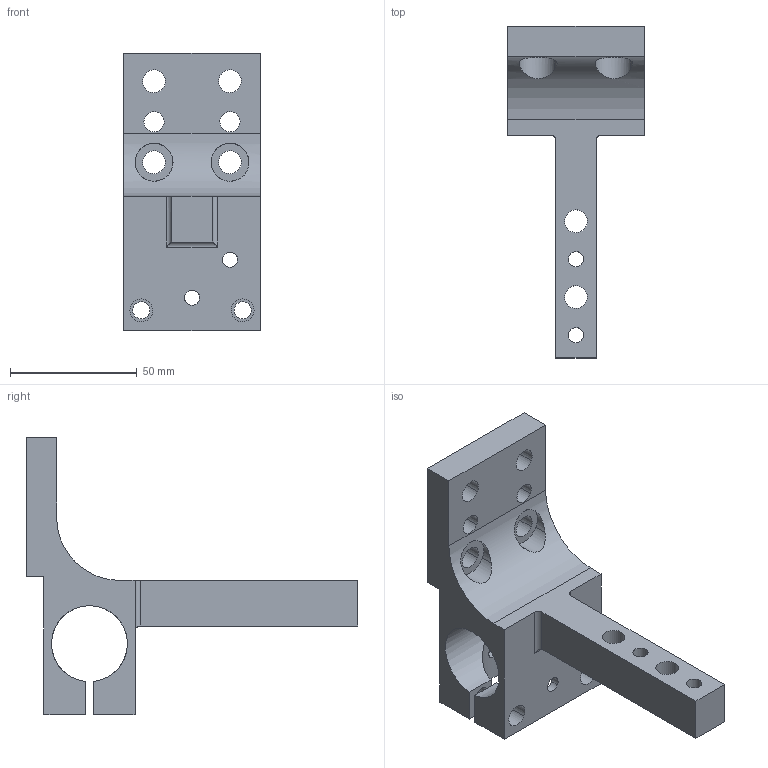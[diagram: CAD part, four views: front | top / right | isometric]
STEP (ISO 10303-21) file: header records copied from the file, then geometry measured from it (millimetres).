
FILE_DESCRIPTION(('CATIA V5 STEP Exchange'),'2;1');
FILE_NAME('\\Tcn-server2\产品部\2-PDD Database\6-Gripping\500-Other product\2-Euro gripper system\Euro Gripper to customer\Euro gripper-3D model for design-V2\EGT183_SPANNERANBINDUNG_50-63.stp','2013-04-08T08:07:40+00:00',('none'),('none'),'CATIA Version 5 Release 21 GA (IN-10)','CATIA V5 STEP AP203','none');
FILE_SCHEMA(('CONFIG_CONTROL_DESIGN'));
Length unit declared in the file: millimetre
Products named in the file (1): EGT183
Bounding box: 54 x 131 x 109.5 mm (x, y, z)
Volume: 102905.5 mm3; surface area: 36487.2 mm2
Topology: 1 solids, 1 shells, 74 faces, 206 edges, 136 vertices
Faces by surface type: cylinder 52, plane 22
Entity records: 2571 total; most frequent: CARTESIAN_POINT 736, ORIENTED_EDGE 412, DIRECTION 264, EDGE_CURVE 206, VERTEX_POINT 136, AXIS2_PLACEMENT_3D 122, EDGE_LOOP 112, VECTOR 102
